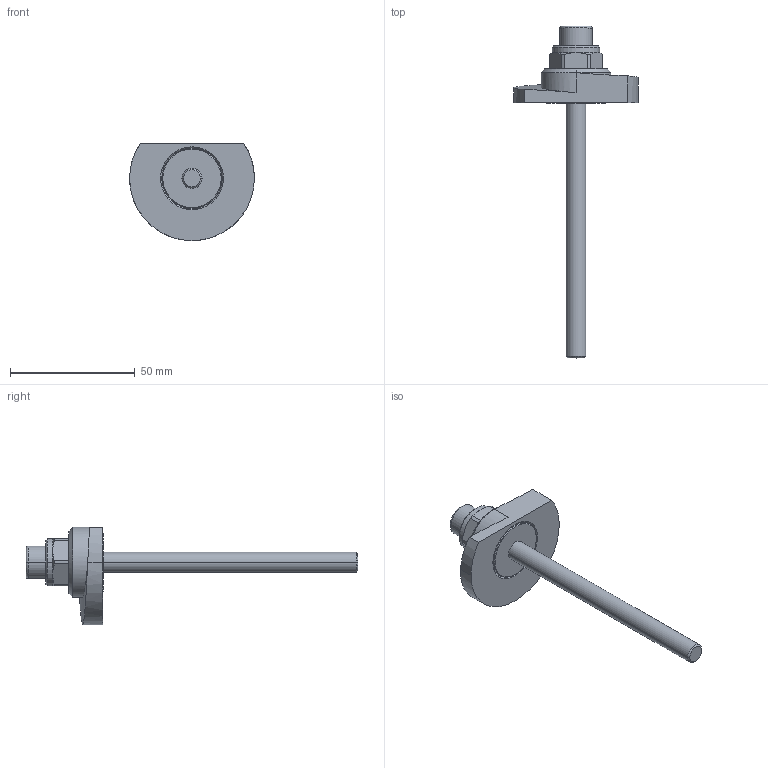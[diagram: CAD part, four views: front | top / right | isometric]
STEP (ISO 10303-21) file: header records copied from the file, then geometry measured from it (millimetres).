
FILE_DESCRIPTION (( 'STEP AP214' ), '1' );
FILE_NAME ('918.1-50-SKS-L-102.step', '2024-05-15T13:03:06', ( '' ), ( '' ), 'SwSTEP 2.0', 'SolidWorks 2022', '' );
FILE_SCHEMA (( 'AUTOMOTIVE_DESIGN' ));
Length unit declared in the file: millimetre
Products named in the file (1): 918.1-50-SKS-L-102
Bounding box: 50 x 133 x 39 mm (x, y, z)
Volume: 25229 mm3; surface area: 10892.1 mm2
Topology: 1 solids, 2 shells, 77 faces, 174 edges, 109 vertices
Faces by surface type: cylinder 25, plane 25, cone 22, bspline 3, torus 2
Entity records: 2537 total; most frequent: CARTESIAN_POINT 767, DIRECTION 379, ORIENTED_EDGE 348, EDGE_CURVE 174, AXIS2_PLACEMENT_3D 152, VERTEX_POINT 109, EDGE_LOOP 87, FACE_OUTER_BOUND 77
